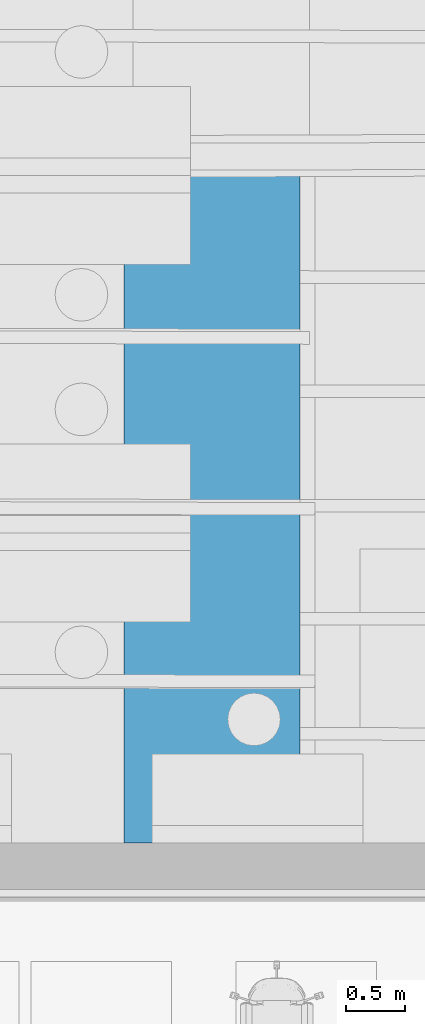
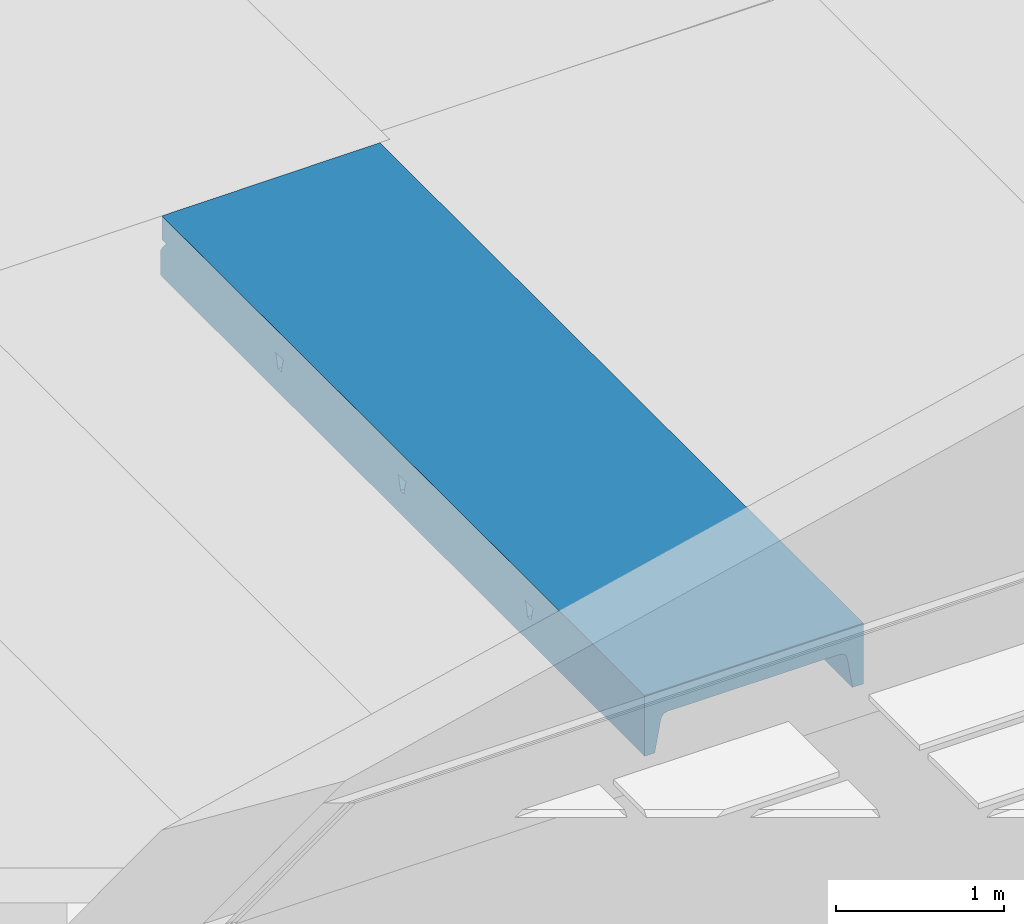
# One storey, part 17 of 153: 1 beam.
"""IFC2X3 building model written with IfcOpenShell, lengths in millimetres."""

import ifcopenshell
import ifcopenshell.guid

model = None  # the IFC model being written
_history = None  # IfcOwnerHistory: only IFC2X3 demands one
_inside = {}  # id of a spatial element -> (the spatial element, [elements in it])
_under = {}  # id of a project, library or spatial element -> (it, [spatial elements below it])
_declared = {}  # id of a project -> (the project, [libraries it declares])
_typed = {}  # id of a type object -> (the type object, [elements of that type])
_made_of = {}  # id of a material, layer set ... -> (it, [elements and type objects made of it])


def new_model(schema):
    """Start an empty IFC model of exactly this schema.

    Asked for "IFC4X3", IfcOpenShell would pick the latest addendum, in which some entities
    have other attributes; the version numbers below select the first issue.
    IFC2X3 requires an IfcOwnerHistory on every rooted entity: one is made here for all.
    """
    global model, _history
    if schema == "IFC4X3":
        model = ifcopenshell.file(schema_version=(4, 3, 0, 0))
    else:
        model = ifcopenshell.file(schema=schema)
    _inside.clear()
    _under.clear()
    _declared.clear()
    _typed.clear()
    _made_of.clear()
    _history = None
    if model.schema == "IFC2X3":
        org = make("IfcOrganization", Name="unknown")
        user = make(
            "IfcPersonAndOrganization",
            ThePerson=make("IfcPerson", FamilyName="unknown"),
            TheOrganization=org,
        )
        app = make(
            "IfcApplication",
            ApplicationDeveloper=org,
            Version="unknown",
            ApplicationFullName="unknown",
            ApplicationIdentifier="unknown",
        )
        _history = make(
            "IfcOwnerHistory",
            OwningUser=user,
            OwningApplication=app,
            ChangeAction="ADDED",
            CreationDate=0,
        )
    return model


def make(cls, **values):
    """One entity of the class cls with the attributes given. An attribute that is None is left unset."""
    return model.create_entity(
        cls, **{name: value for name, value in values.items() if value is not None}
    )


def entity(cls, *values):
    """Any entity or typed value of the class cls, its attributes in the order of the schema. None: left unset."""
    e = model.create_entity(cls)
    for i, value in enumerate(values):
        if value is not None:
            e[i] = value
    return e


def rooted(cls, **values):
    """An entity with a GlobalId (a new one), such as an element, a storey or a relation."""
    return make(cls, GlobalId=ifcopenshell.guid.new(), OwnerHistory=_history, **values)


def si_unit(unit_type, name, prefix=None):
    """IfcSIUnit, for example si_unit("LENGTHUNIT", "METRE", prefix="MILLI")."""
    return make("IfcSIUnit", UnitType=unit_type, Prefix=prefix, Name=name)


def converted_unit(unit_type, name, factor, base, dimensions=None, offset=None):
    """IfcConversionBasedUnit, such as the inch: factor (a typed value) times the base unit."""
    return make(
        "IfcConversionBasedUnit"
        if offset is None
        else "IfcConversionBasedUnitWithOffset",
        ConversionOffset=offset,
        Dimensions=None
        if dimensions is None
        else entity("IfcDimensionalExponents", *dimensions),
        UnitType=unit_type,
        Name=name,
        ConversionFactor=make(
            "IfcMeasureWithUnit", ValueComponent=factor, UnitComponent=base
        ),
    )


def derived_unit(unit_type, elements):
    """IfcDerivedUnit: a product of units, each with its exponent."""
    return make(
        "IfcDerivedUnit",
        Elements=[
            make("IfcDerivedUnitElement", Unit=unit, Exponent=power)
            for unit, power in elements
        ],
        UnitType=unit_type,
    )


def money_unit(currency):
    """IfcMonetaryUnit."""
    return make("IfcMonetaryUnit", Currency=currency)


def assignment(units):
    """IfcUnitAssignment: the units of a project."""
    return None if units is None else make("IfcUnitAssignment", Units=units)


def point(xyz):
    """IfcCartesianPoint."""
    return None if xyz is None else make("IfcCartesianPoint", Coordinates=xyz)


def direction(xyz):
    """IfcDirection."""
    return None if xyz is None else make("IfcDirection", DirectionRatios=xyz)


def frame(location, z_axis=None, x_axis=None):
    """IfcAxis2Placement3D, a coordinate frame: its origin and axes. An axis left out is left unset."""
    return make(
        "IfcAxis2Placement3D",
        Location=point(location),
        Axis=direction(z_axis),
        RefDirection=direction(x_axis),
    )


def origin_with_axes():
    """The frame at (0, 0, 0) with the z axis (0, 0, 1) and the x axis (1, 0, 0) written out."""
    return frame((0.0, 0.0, 0.0), z_axis=(0.0, 0.0, 1.0), x_axis=(1.0, 0.0, 0.0))


def place(relative_to, where):
    """IfcLocalPlacement: puts the frame where relative to a parent placement (None: the world)."""
    return make(
        "IfcLocalPlacement", PlacementRelTo=relative_to, RelativePlacement=where
    )


def context(
    kind, dimensions, precision=None, world=None, true_north=None, identifier=None
):
    """IfcGeometricRepresentationContext, for example the 3D "Model" context."""
    return make(
        "IfcGeometricRepresentationContext",
        ContextIdentifier=identifier,
        ContextType=kind,
        CoordinateSpaceDimension=dimensions,
        Precision=precision,
        WorldCoordinateSystem=world,
        TrueNorth=true_north,
    )


def subcontext(parent, identifier, kind, view, scale=None):
    """IfcGeometricRepresentationSubContext, for example "Body" below "Model"."""
    return make(
        "IfcGeometricRepresentationSubContext",
        ContextIdentifier=identifier,
        ContextType=kind,
        ParentContext=parent,
        TargetScale=scale,
        TargetView=view,
    )


def project(units=None, contexts=None):
    """IfcProject with its units and contexts."""
    return rooted(
        "IfcProject",
        Name="project",
        RepresentationContexts=contexts,
        UnitsInContext=assignment(units),
    )


def spatial(cls, under=None, at=None, **own):
    """A site, building, storey or space (cls), placed at a placement, below another one or the project."""
    s = rooted(cls, ObjectPlacement=at, **own)
    if under is not None:
        _under.setdefault(under.id(), (under, []))[1].append(s)
    return s


def faces_of(points, faces, orient=None, outer=None):
    """IfcFace entities. A face is a list of loops; a loop is a list of indices into points, from 0.

    orient and outer hold one flag for each loop. By default every Orientation is true, the
    first loop of a face is its IfcFaceOuterBound and the others are IfcFaceBound.
    """
    made = []
    for i, loops in enumerate(faces):
        bounds = []
        for j, loop in enumerate(loops):
            is_outer = j == 0 if outer is None else outer[i][j]
            bounds.append(
                make(
                    "IfcFaceOuterBound" if is_outer else "IfcFaceBound",
                    Bound=make("IfcPolyLoop", Polygon=[points[k] for k in loop]),
                    Orientation=True if orient is None else orient[i][j],
                )
            )
        made.append(make("IfcFace", Bounds=bounds))
    return made


def faceted_brep(points, faces, orient=None, outer=None, voids=None):
    """IfcFacetedBrep: a solid bounded by flat faces; with voids (closed shells), ...WithVoids."""
    shared = [point(p) for p in points]
    hull = make("IfcClosedShell", CfsFaces=faces_of(shared, faces, orient, outer))
    if voids is None:
        return make("IfcFacetedBrep", Outer=hull)
    return make(
        "IfcFacetedBrepWithVoids",
        Outer=hull,
        Voids=[
            make(cls, CfsFaces=faces_of(shared, fs, o, b)) for cls, fs, o, b in voids
        ],
    )


def shape(context_of_items, identifier, shape_type, items):
    """IfcShapeRepresentation: the items that make up one representation, for example the "Body"."""
    return make(
        "IfcShapeRepresentation",
        ContextOfItems=context_of_items,
        RepresentationIdentifier=identifier,
        RepresentationType=shape_type,
        Items=items,
    )


def material(Name=None, Category=None):
    """IfcMaterial."""
    return make("IfcMaterial", Name=Name, Category=Category)


def made_of(thing, what):
    """Note that an element or type object is made of a material, layer set ...; save() writes the relation."""
    if what is not None:
        _made_of.setdefault(what.id(), (what, []))[1].append(thing)
    return thing


def type_object(cls, material=None, **own):
    """A type object (cls), such as IfcWallType, which elements share."""
    return made_of(rooted(cls, **own), material)


def element(
    cls,
    number,
    at=None,
    inside=None,
    cuts=None,
    type_object=None,
    material=None,
    context=None,
    identifier="Body",
    shape_type=None,
    held_by="IfcProductDefinitionShape",
    body=None,
    shapes=None,
    **own,
):
    """One element of the class cls, such as IfcWall. Its Tag is "e" and its number.

    at: its placement. inside: the storey or other place that contains it. cuts: it is an
    opening in that element (IfcRelVoidsElement). A single representation is given by context,
    identifier, shape_type and body (its items); several are given by shapes. held_by: the class
    of the entity that holds the representations. save() writes the other relations.
    """
    e = rooted(cls, Tag="e%d" % number, ObjectPlacement=at, **own)
    if body is not None:
        shapes = [shape(context, identifier, shape_type, body)]
    if shapes is not None:
        e.Representation = make(held_by, Representations=shapes)
    if inside is not None:
        _inside.setdefault(inside.id(), (inside, []))[1].append(e)
    if cuts is not None:
        rooted(
            "IfcRelVoidsElement", RelatingBuildingElement=cuts, RelatedOpeningElement=e
        )
    if type_object is not None:
        _typed.setdefault(type_object.id(), (type_object, []))[1].append(e)
    return made_of(e, material)


def aggregate(whole, parts):
    """IfcRelAggregates: a whole, such as a stair, and the parts it consists of."""
    return rooted("IfcRelAggregates", RelatingObject=whole, RelatedObjects=parts)


def save(model, path):
    """Write the relations noted so far, then the file.

    IfcRelAggregates (storeys below a building ...), IfcRelContainedInSpatialStructure (elements
    in a storey), IfcRelDefinesByType, IfcRelAssociatesMaterial and IfcRelDeclares: one each for
    every whole, place, type object, material and project.
    """
    for whole, parts in _under.values():
        aggregate(whole, parts)
    for where, things in _inside.values():
        rooted(
            "IfcRelContainedInSpatialStructure",
            RelatedElements=things,
            RelatingStructure=where,
        )
    for kind, things in _typed.values():
        rooted("IfcRelDefinesByType", RelatedObjects=things, RelatingType=kind)
    for what, things in _made_of.values():
        rooted("IfcRelAssociatesMaterial", RelatedObjects=things, RelatingMaterial=what)
    for by, libraries in _declared.values():
        rooted("IfcRelDeclares", RelatingContext=by, RelatedDefinitions=libraries)
    model.write(path)


model = new_model("IFC2X3")

# Units and contexts
model_context = context("Model", 3, precision=0.01, world=origin_with_axes(), true_north=direction((0.0, 1.0)))
body_context = subcontext(model_context, "Body", "Model", "MODEL_VIEW")
ifc_project = project(units=[si_unit("LENGTHUNIT", "METRE", prefix="MILLI"), si_unit("AREAUNIT", "SQUARE_METRE"), si_unit("VOLUMEUNIT", "CUBIC_METRE"), converted_unit("PLANEANGLEUNIT", "DEGREE", entity("IfcPlaneAngleMeasure", 0.0174532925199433), si_unit("PLANEANGLEUNIT", "RADIAN"), dimensions=[0, 0, 0, 0, 0, 0, 0]), money_unit("EUR"), converted_unit("TIMEUNIT", "Year", entity("IfcTimeMeasure", 31557600.0), si_unit("TIMEUNIT", "SECOND"), dimensions=[0, 0, 1, 0, 0, 0, 0]), si_unit("MASSUNIT", "GRAM", prefix="KILO"), si_unit("THERMODYNAMICTEMPERATUREUNIT", "DEGREE_CELSIUS"), si_unit("LUMINOUSINTENSITYUNIT", "LUMEN"), si_unit("ENERGYUNIT", "JOULE", prefix="MEGA"), derived_unit("THERMALCONDUCTANCEUNIT", [(si_unit("POWERUNIT", "WATT"), 1), (si_unit("LENGTHUNIT", "METRE"), -1), (si_unit("THERMODYNAMICTEMPERATUREUNIT", "KELVIN"), -1)]), derived_unit("SPECIFICHEATCAPACITYUNIT", [(si_unit("ENERGYUNIT", "JOULE"), 1), (si_unit("MASSUNIT", "GRAM", prefix="KILO"), -1), (si_unit("THERMODYNAMICTEMPERATUREUNIT", "KELVIN"), -1)]), derived_unit("MASSDENSITYUNIT", [(si_unit("MASSUNIT", "GRAM", prefix="KILO"), 1), (si_unit("VOLUMEUNIT", "CUBIC_METRE"), -1)])], contexts=[model_context])

# Site, building, storey
site_placement = place(None, frame((0.0, 0.0, 8650.0), z_axis=(0.0, 0.0, 1.0), x_axis=(1.0, 0.0, 0.0)))
site = spatial("IfcSite", under=ifc_project, at=site_placement, Name="43301:001:0844", CompositionType="ELEMENT")
building_placement = place(site_placement, origin_with_axes())
building = spatial("IfcBuilding", under=site, at=building_placement, Name="Kuressaare Ametikooli tuulikute mehaanikute õppekorpus", CompositionType="ELEMENT")
storey_placement = place(building_placement, frame((0.0, 0.0, 4100.0), z_axis=(0.0, 0.0, 1.0), x_axis=(1.0, 0.0, 0.0)))
storey = spatial("IfcBuildingStorey", under=building, at=storey_placement, Name="2.korrus", CompositionType="ELEMENT", Elevation=4100.0)

# Beam
ifc_material = material(Name="GENEERILINE - KONSTRUKTRIOON")
beam_type = type_object("IfcBeamType", Name="Precast Double Tee 2 1500 x 440", PredefinedType="NOTDEFINED")
beam_placement = place(storey_placement, frame((93515.87775377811, 32034.33665916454, 2975.000000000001), z_axis=(0.0, 0.0, 1.0), x_axis=(-1.0, 0.0, 0.0)))
element("IfcBeam", 1, at=beam_placement, inside=storey, type_object=beam_type, material=ifc_material, context=body_context, shape_type="Brep", body=[
    faceted_brep([(680.0000000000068, 5851.267735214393, -440.0001340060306), (680.0000000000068, 112.7448061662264, -440.0001340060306), (679.0903904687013, 112.7423040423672, -435.0000000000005), (679.0903904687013, 103.4233393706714, -435.0000000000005), (646.9705890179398, 103.3081717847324, -258.4370837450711), (641.1215823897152, 122.5086814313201, -226.2850273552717), (638.1842783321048, 134.9412654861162, -210.1386333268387), (638.1842783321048, 1482.313190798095, -210.1386333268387), (649.4040442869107, 1496.889755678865, -271.8138152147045), (649.4040442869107, 1536.889898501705, -271.8138152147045), (638.1842783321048, 1551.525783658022, -210.1386333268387), (638.1842783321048, 2938.06264910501, -210.1386333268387), (649.4040442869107, 2952.63921398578, -271.8138152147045), (649.4040442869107, 2992.639356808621, -271.8138152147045), (638.1842783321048, 3007.275241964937, -210.1386333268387), (638.1842783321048, 4447.869807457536, -210.1386333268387), (649.4040442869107, 4462.446372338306, -271.8138152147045), (649.4040442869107, 4502.446515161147, -271.8138152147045), (638.1842783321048, 4517.082400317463, -210.1386333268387), (638.1842783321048, 5851.267735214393, -210.1386333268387), (750.0, 5851.267735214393, -440.0001340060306), (750.0, 112.9373598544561, -440.0001340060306), (750.0, 112.9373598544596, -435.0000000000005), (750.0, 103.6787794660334, -435.0000000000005), (750.0, 103.6793181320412, -258.4370837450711), (750.0, 122.9008978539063, -226.2850273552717), (750.0, 145.7668385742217, -196.6139201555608), (633.0735096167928, 145.3456303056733, -196.6139201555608), (631.9095256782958, 148.3543493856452, -193.5336498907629), (631.9095256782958, 1478.397396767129, -193.5336498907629), (623.6892735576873, 1476.217479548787, -184.2363394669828), (750.0, 1475.879940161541, -184.2363394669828), (750.0, 1496.620933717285, -271.8138152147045), (750.0, 1536.621076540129, -271.8138152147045), (750.0, 1557.361108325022, -184.236534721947), (623.6894461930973, 1557.698647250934, -184.236534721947), (631.9095256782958, 1555.474940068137, -193.5336498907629), (631.9095256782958, 2934.146855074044, -193.5336498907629), (623.6892735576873, 2931.966937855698, -184.2363394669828), (750.0, 2931.629398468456, -184.2363394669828), (750.0, 2952.3703920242, -271.8138152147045), (750.0, 2992.370534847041, -271.8138152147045), (623.6894461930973, 3013.448105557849, -184.236534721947), (631.9095256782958, 3011.224398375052, -193.5336498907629), (750.0, 3013.110566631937, -184.236534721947), (631.9095256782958, 4443.95401342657, -193.5336498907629), (623.6892735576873, 4441.774096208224, -184.2363394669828), (750.0, 4441.436556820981, -184.2363394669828), (750.0, 4462.177550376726, -271.8138152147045), (750.0, 4502.177693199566, -271.8138152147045), (631.9095256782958, 4521.031556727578, -193.5336498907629), (750.0, 4522.917724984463, -184.236534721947), (623.6894461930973, 4523.255263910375, -184.236534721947), (631.9095256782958, 5851.267735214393, -193.5336498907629), (750.0, 5851.267735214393, 0.0), (620.1516209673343, 5851.267735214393, -180.2351660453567), (604.4404036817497, 5851.267735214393, -171.9734684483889), (586.8200850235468, 5851.267735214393, -169.8234995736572), (-584.2531439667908, 5851.267735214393, -169.8234995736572), (-604.310838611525, 5851.267735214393, -173.5057932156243), (-621.7526411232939, 5851.267735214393, -184.072435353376), (-634.3038197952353, 5851.267735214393, -200.1453415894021), (-640.3274701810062, 5851.267735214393, -219.6283094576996), (-674.9999969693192, 5851.267735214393, -440.0001340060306), (-750.0, 5851.267735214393, -440.0001340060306), (-750.0, 5851.267735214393, 0.0), (750.0, 117.9547511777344, 0.0), (749.9999999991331, 117.9547511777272, -169.834743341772), (750.0, 171.9604189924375, -169.834743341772), (750.0, 1471.305290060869, -175.4405967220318), (750.0, 1463.106480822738, -169.8663369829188), (750.0, 1570.13461390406, -169.8663369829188), (750.0, 1561.935738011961, -175.4406717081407), (750.0, 2918.855939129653, -169.8663369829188), (750.0, 3025.884072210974, -169.8663369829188), (750.0, 3017.685196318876, -175.4406717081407), (750.0, 2927.054748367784, -175.4405967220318), (750.0, 4535.691230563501, -169.8663369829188), (750.0, 4527.492354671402, -175.4406717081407), (750.0, 4436.86190672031, -175.4405967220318), (750.0, 4428.663097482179, -169.8663369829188), (604.4404036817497, 169.344108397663, -171.9734684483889), (620.1516209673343, 161.3196713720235, -180.2351660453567), (586.9122346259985, 171.3729223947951, -169.834743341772), (620.1516209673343, 1474.145930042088, -180.2351660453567), (611.0338192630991, 1471.676648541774, -175.4405967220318), (611.0339618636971, 1562.307096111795, -175.4406717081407), (620.1516209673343, 1559.789168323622, -180.2351660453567), (620.1516209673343, 2929.895388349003, -180.2351660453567), (611.0338192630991, 2927.426106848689, -175.4405967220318), (620.1516209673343, 3015.538626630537, -180.2351660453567), (620.1516209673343, 4439.702546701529, -180.2351660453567), (611.0339618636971, 3018.05655441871, -175.4406717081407), (611.0338192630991, 4437.233265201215, -175.4405967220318), (611.0339618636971, 4527.863712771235, -175.4406717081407), (620.1516209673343, 4525.345784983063, -180.2351660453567), (604.4404036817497, 4532.980985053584, -171.9734684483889), (586.9122346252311, 116.9846358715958, -169.834743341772), (586.8200850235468, 116.9840875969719, -169.8234995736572), (587.1711639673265, 4536.126357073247, -169.8663369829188), (587.1711639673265, 4429.098223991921, -169.8663369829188), (604.4404036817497, 4432.151315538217, -171.9734684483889), (604.4404036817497, 3023.173826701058, -171.9734684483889), (587.1711639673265, 3026.319198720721, -169.8663369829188), (587.1711639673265, 2919.291065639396, -169.8663369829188), (604.4404036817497, 2922.344157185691, -171.9734684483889), (604.4404036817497, 1567.424368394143, -171.9734684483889), (587.1711639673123, 1570.569740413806, -169.8663369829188), (587.1711639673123, 1463.54160733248, -169.8663369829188), (604.4404036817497, 1466.594698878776, -171.9734684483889), (-584.2531439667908, 110.0180466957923, -169.8234995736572), (-584.3143895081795, 110.0176823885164, -169.834743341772), (-584.3143895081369, 167.1537729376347, -169.834743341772), (-604.310838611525, 163.4909662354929, -173.5057932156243), (-604.310838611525, 1472.078632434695, -173.5057932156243), (-584.4864821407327, 1466.672620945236, -169.8663369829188), (-584.4864821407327, 1573.700754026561, -169.8663369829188), (-604.310838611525, 1568.400724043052, -173.5057932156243), (-604.310838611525, 2927.82809074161, -173.5057932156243), (-584.4864821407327, 2922.422079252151, -169.8663369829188), (-584.4864821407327, 3029.450212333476, -169.8663369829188), (-604.310838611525, 3024.150182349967, -173.5057932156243), (-604.310838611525, 4437.635249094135, -173.5057932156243), (-584.4864821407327, 4432.229237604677, -169.8663369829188), (-584.4864821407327, 4539.257370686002, -169.8663369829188), (-604.310838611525, 4533.957340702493, -173.5057932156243), (-607.5046411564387, 4531.12000608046, -175.4406717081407), (-621.7526411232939, 4526.668797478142, -184.072435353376), (-621.8807847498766, 4526.583793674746, -184.236534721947), (-634.3038197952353, 4522.849471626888, -200.1453415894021), (-640.3274701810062, 4518.251616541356, -219.6283094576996), (-674.2132934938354, 98.54828753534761, -435.0000000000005), (-674.2132934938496, 109.0196809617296, -435.0000000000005), (-674.9999969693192, 109.0175169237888, -440.0001340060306), (-648.5381538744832, 4505.914998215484, -271.8138152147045), (-648.5381538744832, 4465.914855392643, -271.8138152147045), (-640.3274701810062, 4453.533808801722, -219.6283094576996), (-640.3274701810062, 3008.44445818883, -219.6283094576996), (-648.5381538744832, 2996.107839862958, -271.8138152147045), (-648.5381538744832, 2956.107697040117, -271.8138152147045), (-640.3274701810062, 2943.726650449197, -219.6283094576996), (-640.3274701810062, 1552.694999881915, -219.6283094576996), (-648.5381538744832, 1540.358381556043, -271.8138152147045), (-648.5381538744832, 1500.358238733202, -271.8138152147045), (-640.3274701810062, 1487.977192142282, -219.6283094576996), (-640.3274701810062, 123.0224516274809, -219.6283094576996), (-641.3748147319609, 117.8887010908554, -226.2850273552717), (-646.433506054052, 98.64889827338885, -258.4370837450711), (-750.0, 108.8112110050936, -440.0001340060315), (-750.0, 108.811211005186, -435.0000000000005), (-750.0, 109.0321141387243, -435.0000000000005), (-750.0, 109.0321143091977, -240.4449583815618), (-750.0, 117.4973968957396, -226.2850273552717), (-750.0, 140.3633376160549, -196.6139201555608), (-750.0, 166.5569180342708, -169.834743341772), (-750.0000000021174, 109.0321143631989, -169.834743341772), (-750.0, 109.032113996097, 0.0), (-750.0, 4965.625461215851, -175.4406717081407), (-750.0, 4973.824337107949, -169.8663369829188), (-750.0, 4920.310270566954, -169.8663369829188), (-750.0, 4920.31027056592, -271.8138152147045), (-750.0, 4940.310799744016, -271.8138152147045), (-750.0, 4961.050831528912, -184.236534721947), (-750.0, 3990.626493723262, -169.8663369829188), (-750.0, 3937.112427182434, -169.8663369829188), (-750.0, 3937.112427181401, -271.8138152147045), (-750.0, 3957.112956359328, -271.8138152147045), (-750.0, 3977.852988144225, -184.236534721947), (-750.0, 3982.427617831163, -175.4406717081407), (-750.0, 2973.378221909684, -169.8663369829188), (-750.0, 2973.37822190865, -271.8138152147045), (-750.0, 2993.378751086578, -271.8138152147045), (-750.0, 3014.118782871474, -184.236534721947), (-750.0, 3018.693412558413, -175.4406717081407), (-750.0, 3026.892288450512, -169.8663369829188), (-750.0, 1996.47847569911, -271.8138152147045), (-750.0, 2016.479004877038, -271.8138152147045), (-750.0, 2037.219036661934, -184.236534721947), (-750.0, 2041.793666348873, -175.4406717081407), (-750.0, 2049.992542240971, -169.8663369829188), (-750.0, 1996.478475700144, -169.8663369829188), (-750.0, 1042.71751542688, -271.8138152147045), (-750.0, 1063.457547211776, -184.236534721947), (-750.0, 1068.032176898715, -175.4406717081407), (-750.0, 1076.231052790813, -169.8663369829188), (-750.0, 1022.716986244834, -169.8663369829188), (-750.0, 1022.7169862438, -271.8138152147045), (-750.0, 1500.629374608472, -271.8138152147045), (-750.0, 1520.628988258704, -271.8138152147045), (-750.0, 1520.628988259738, -169.8663369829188), (-750.0, 1467.114921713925, -169.8663369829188), (-750.0, 1475.313730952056, -175.4405967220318), (-750.0, 1479.888381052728, -184.2363394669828), (-653.4005737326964, 109.6067284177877, -169.834743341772), (-653.3393292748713, 109.6070927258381, -169.8234995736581), (-626.3189874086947, 109.7678211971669, -169.834743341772), (-625.6660417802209, 0.0, -169.834743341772), (-652.7485863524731, 0.0, -169.834743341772), (-631.5461665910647, 140.7900478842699, -196.6139201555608), (-621.7526411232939, 153.0925600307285, -184.072435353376), (-621.7526411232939, 1479.460420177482, -184.072435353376), (-607.5045173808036, 1474.932941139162, -175.4405967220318), (-749.8569957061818, 1574.142672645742, -169.8663369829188), (-749.8789053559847, 1565.943855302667, -175.4406717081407), (-607.5046411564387, 1565.563389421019, -175.4406717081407), (-607.5045173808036, 2930.682399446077, -175.4405967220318), (-621.7526411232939, 1561.1121808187, -184.072435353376), (-621.7526411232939, 2935.209878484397, -184.072435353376), (-749.8668924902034, 2931.062833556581, -175.4405967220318), (-749.8888019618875, 2922.864082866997, -169.8663369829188), (-749.6027933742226, 3029.891451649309, -169.8663369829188), (-749.6247030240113, 3021.692634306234, -175.4406717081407), (-607.5046411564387, 3021.312847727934, -175.4406717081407), (-621.7526411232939, 3016.861639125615, -184.072435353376), (-621.7526411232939, 4445.017036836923, -184.072435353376), (-607.5045173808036, 4440.489557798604, -175.4405967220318), (-749.8668924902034, 4440.869991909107, -175.4405967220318), (-749.8888019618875, 4432.671241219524, -169.8663369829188), (-749.6027933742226, 4539.698610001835, -169.8663369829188), (-749.6247030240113, 4531.49979265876, -175.4406717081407), (-749.6369276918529, 4526.925195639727, -184.236534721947), (-749.6923507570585, 4506.185311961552, -271.8138152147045), (-743.2338088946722, 98.29965258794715, -435.0000000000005), (-743.2964457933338, 108.8296493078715, -435.0000000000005), (-749.7992421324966, 4466.185454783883, -271.8138152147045), (-749.8546677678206, 4445.444609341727, -184.2363394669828), (-621.88063227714, 4445.102625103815, -184.2363394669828), (-634.3038197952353, 4448.903556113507, -200.1453415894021), (-634.3038197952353, 3013.042313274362, -200.1453415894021), (-621.8807847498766, 3016.77663532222, -184.236534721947), (-749.6369276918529, 3017.118037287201, -184.236534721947), (-749.6923507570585, 2996.378153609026, -271.8138152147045), (-749.7992421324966, 2956.378296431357, -271.8138152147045), (-749.8546677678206, 2935.637450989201, -184.2363394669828), (-621.88063227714, 2935.295466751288, -184.2363394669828), (-634.3038197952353, 2939.096397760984, -200.1453415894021), (-634.3038197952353, 1557.292854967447, -200.1453415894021), (-749.9465530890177, 1540.629374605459, -271.8138152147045), (-621.8807847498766, 1561.027177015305, -184.236534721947), (-749.891130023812, 1561.369258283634, -184.236534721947), (-621.8806322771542, 1479.546008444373, -184.2363394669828), (-634.3038197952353, 1483.346939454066, -200.1453415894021), (-634.3038197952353, 138.0586356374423, -200.1453415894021), (-712.6647720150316, 109.2541997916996, -240.2984434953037), (-715.4541284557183, 98.40026294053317, -258.4370837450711), (-743.2978872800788, 109.0719810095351, -435.0000000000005), (-749.8789053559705, 4965.625137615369, -175.4406717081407), (-749.8569957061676, 4973.823954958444, -169.8663369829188), (-749.8911300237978, 4961.050540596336, -184.236534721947), (-749.9465530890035, 4940.310656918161, -271.8138152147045), (-749.8569957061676, 3990.626111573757, -169.8663369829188), (-749.8789053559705, 3982.427294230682, -175.4406717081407), (-749.8911300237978, 3977.852697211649, -184.236534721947), (-749.9465530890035, 3957.112813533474, -271.8138152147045), (-749.8569957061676, 3026.891906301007, -169.8663369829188), (-749.8789053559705, 3018.693088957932, -175.4406717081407), (-749.8911300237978, 3014.118491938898, -184.236534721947), (-749.9465530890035, 2993.378608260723, -271.8138152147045), (-749.9465530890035, 2016.478862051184, -271.8138152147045), (-749.8911300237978, 2037.218745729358, -184.236534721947), (-749.8789053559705, 2041.793342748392, -175.4406717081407), (-749.8569957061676, 2049.992160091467, -169.8663369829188), (-749.9465530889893, 1042.717372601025, -271.8138152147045), (-749.8911300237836, 1063.4572562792, -184.236534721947), (-749.8789053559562, 1068.031853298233, -175.4406717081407), (-749.8569957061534, 1076.230670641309, -169.8663369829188), (-652.6873397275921, 0.0, -169.8234995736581)], [[[0, 1, 2, 3, 4, 5, 6, 7, 8, 9, 10, 11, 12, 13, 14, 15, 16, 17, 18, 19]], [[20, 21, 1, 0]], [[22, 2, 1, 21]], [[22, 23, 3, 2]], [[4, 3, 23, 24]], [[25, 5, 4, 24]], [[5, 25, 26, 27, 6]], [[27, 28, 29, 7, 6]], [[7, 29, 30, 31, 32, 8]], [[8, 32, 33, 9]], [[34, 35, 36, 10, 9, 33]], [[10, 36, 37, 11]], [[37, 38, 39, 40, 12, 11]], [[40, 41, 13, 12]], [[42, 43, 14, 13, 41, 44]], [[43, 45, 15, 14]], [[46, 47, 48, 16, 15, 45]], [[49, 17, 16, 48]], [[50, 18, 17, 49, 51, 52]], [[19, 18, 50, 53]], [[54, 20, 0, 19, 53, 55, 56, 57, 58, 59, 60, 61, 62, 63, 64, 65]], [[23, 22, 21, 20, 54, 66, 67, 68, 26, 25, 24], [69, 70, 71, 72, 34, 33, 32, 31], [73, 74, 75, 44, 41, 40, 39, 76], [77, 78, 51, 49, 48, 47, 79, 80]], [[81, 82, 28, 27, 26, 68, 83]], [[82, 84, 30, 29, 28]], [[31, 30, 84, 85, 69]], [[34, 72, 86, 87, 35]], [[38, 37, 36, 35, 87, 88]], [[38, 88, 89, 76, 39]], [[45, 43, 42, 90, 91, 46]], [[75, 92, 90, 42, 44]], [[91, 93, 79, 47, 46]], [[94, 95, 52, 51, 78]], [[52, 95, 55, 53, 50]], [[94, 96, 56, 55, 95]], [[81, 83, 97, 98, 57, 56, 96, 99, 100, 101, 102, 103, 104, 105, 106, 107, 108, 109]], [[58, 57, 98, 110]], [[59, 58, 110, 111, 112, 113, 114, 115, 116, 117, 118, 119, 120, 121, 122, 123, 124, 125]], [[126, 127, 60, 59, 125]], [[128, 129, 61, 60, 127]], [[61, 129, 130, 62]], [[131, 132, 133, 63, 62, 130, 134, 135, 136, 137, 138, 139, 140, 141, 142, 143, 144, 145, 146, 147]], [[63, 133, 148, 64]], [[148, 149, 150, 151, 152, 153, 154, 155, 156, 65, 64], [157, 158, 159, 160, 161, 162], [163, 164, 165, 166, 167, 168], [169, 170, 171, 172, 173, 174], [175, 176, 177, 178, 179, 180], [181, 182, 183, 184, 185, 186], [187, 188, 189, 190, 191, 192]], [[54, 65, 156, 66]], [[97, 67, 66, 156, 155, 193, 194, 195, 111, 110, 98]], [[83, 68, 67, 97]], [[69, 85, 109, 108, 70]], [[107, 71, 70, 108]], [[72, 71, 107, 106, 86]], [[74, 73, 104, 103]], [[74, 103, 102, 92, 75]], [[89, 105, 104, 73, 76]], [[99, 96, 94, 78, 77]], [[101, 100, 80, 79, 93]], [[80, 100, 99, 77]], [[81, 109, 85, 84, 82]], [[89, 88, 87, 86, 106, 105]], [[91, 90, 92, 102, 101, 93]], [[196, 197, 193, 155, 154, 112, 111, 195]], [[112, 154, 153, 198, 199, 113]], [[199, 200, 201, 114, 113]], [[114, 201, 191, 190, 115]], [[116, 115, 190, 189, 202]], [[202, 203, 204, 117, 116]], [[205, 118, 117, 204, 206, 207]], [[119, 118, 205, 208, 209]], [[209, 210, 120, 119]], [[211, 212, 121, 120, 210]], [[122, 121, 212, 213, 214, 215]], [[122, 215, 216, 217, 123]], [[218, 124, 123, 217]], [[126, 125, 124, 218, 219]], [[128, 127, 126, 219, 220]], [[130, 129, 128, 220, 221, 134]], [[131, 222, 223, 132]], [[148, 133, 132, 223, 149]], [[224, 135, 134, 221]], [[135, 224, 225, 226, 227, 136]], [[137, 136, 227, 228]], [[138, 137, 228, 229, 230, 231]], [[231, 232, 139, 138]], [[140, 139, 232, 233, 234, 235]], [[236, 141, 140, 235]], [[237, 142, 141, 236, 238, 239]], [[142, 237, 188, 187, 143]], [[143, 187, 192, 240, 241, 144]], [[241, 242, 145, 144]], [[198, 153, 152, 146, 145, 242]], [[152, 151, 243, 244, 147, 146]], [[244, 222, 131, 147]], [[223, 245, 150, 149]], [[150, 245, 243, 151]], [[158, 157, 246, 247]], [[159, 158, 247]], [[160, 159, 247, 246, 248, 249]], [[161, 160, 249]], [[162, 161, 249, 248]], [[157, 162, 248, 246]], [[163, 250, 164]], [[164, 250, 251, 252, 253, 165]], [[165, 253, 166]], [[166, 253, 252, 167]], [[167, 252, 251, 168]], [[168, 251, 250, 163]], [[254, 255, 256, 257, 170, 169]], [[257, 171, 170]], [[257, 256, 172, 171]], [[256, 255, 173, 172]], [[255, 254, 174, 173]], [[254, 169, 174]], [[176, 175, 258]], [[259, 177, 176, 258]], [[260, 178, 177, 259]], [[261, 179, 178, 260]], [[180, 179, 261]], [[260, 259, 258, 175, 180, 261]], [[182, 181, 262, 263]], [[183, 182, 263, 264]], [[184, 183, 264, 265]], [[184, 265, 185]], [[263, 262, 186, 185, 265, 264]], [[186, 262, 181]], [[202, 189, 188, 237, 239, 203]], [[200, 240, 192, 191, 201]], [[266, 194, 193, 197]], [[195, 194, 266, 196]], [[197, 196, 266]], [[241, 240, 200, 199, 198, 242]], [[203, 239, 238, 206, 204]], [[234, 207, 206, 238, 236, 235]], [[205, 207, 234, 233, 208]], [[209, 208, 233, 232, 231, 230, 211, 210]], [[230, 229, 213, 212, 211]], [[214, 213, 229, 228, 227, 226]], [[214, 226, 225, 216, 215]], [[216, 225, 224, 221, 220, 219, 218, 217]], [[245, 223, 222, 244, 243]]]),
])

save(model, "model.ifc")
